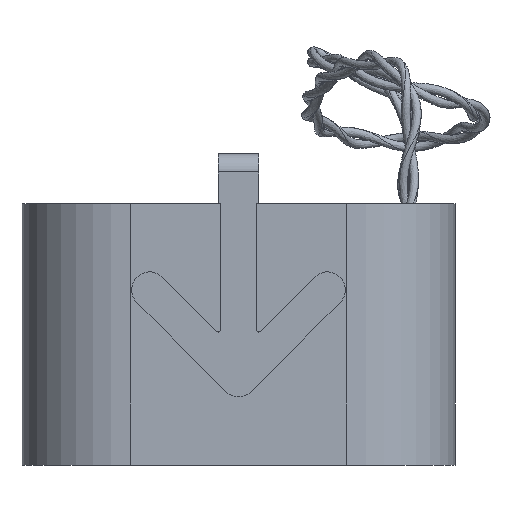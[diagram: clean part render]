
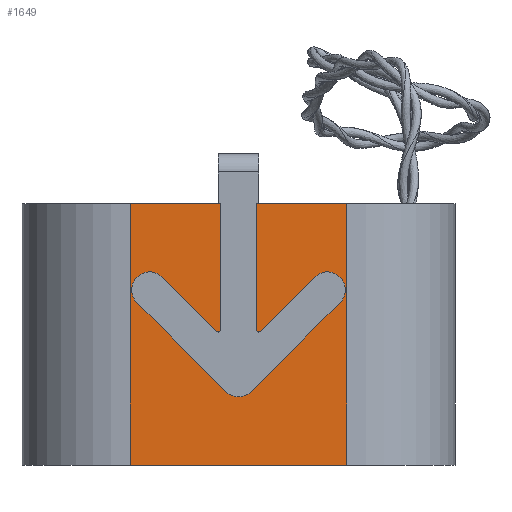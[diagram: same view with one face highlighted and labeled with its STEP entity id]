
A CAD part, front view. The second image highlights one B-rep face of the part: STEP entity #1649.
In plain terms, the highlighted planar face has unit normal (0, -1, 0).
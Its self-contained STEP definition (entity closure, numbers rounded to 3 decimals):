
#166=DIRECTION('',(-1.,0.,0.));
#167=VECTOR('',#166,10.);
#168=CARTESIAN_POINT('',(36.,0.,29.));
#169=LINE('',#168,#167);
#187=DIRECTION('',(0.,0.,1.));
#188=VECTOR('',#187,29.);
#189=CARTESIAN_POINT('',(36.,0.,0.));
#190=LINE('',#189,#188);
#195=DIRECTION('',(0.,0.,-1.));
#196=VECTOR('',#195,13.993);
#197=CARTESIAN_POINT('',(22.,0.,29.));
#198=LINE('',#197,#196);
#199=CARTESIAN_POINT('',(21.75,0.,15.007));
#200=DIRECTION('',(0.,-1.,0.));
#201=DIRECTION('',(0.,0.,-1.));
#202=AXIS2_PLACEMENT_3D('',#199,#200,#201);
#204=CARTESIAN_POINT('',(21.75,0.,15.007));
#205=DIRECTION('',(0.,-1.,0.));
#206=DIRECTION('',(-0.707,0.,-0.707));
#207=AXIS2_PLACEMENT_3D('',#204,#205,#206);
#209=DIRECTION('',(0.707,0.,-0.707));
#210=VECTOR('',#209,8.498);
#211=CARTESIAN_POINT('',(15.564,0.,20.839));
#212=LINE('',#211,#210);
#213=CARTESIAN_POINT('',(14.15,0.,19.425));
#214=DIRECTION('',(0.,-1.,0.));
#215=DIRECTION('',(0.707,0.,0.707));
#216=AXIS2_PLACEMENT_3D('',#213,#214,#215);
#218=DIRECTION('',(-0.707,0.,0.707));
#219=VECTOR('',#218,13.93);
#220=CARTESIAN_POINT('',(22.586,0.,8.161));
#221=LINE('',#220,#219);
#222=CARTESIAN_POINT('',(24.,0.,9.575));
#223=DIRECTION('',(0.,1.,0.));
#224=DIRECTION('',(0.,0.,-1.));
#225=AXIS2_PLACEMENT_3D('',#222,#223,#224);
#227=CARTESIAN_POINT('',(24.,0.,9.575));
#228=DIRECTION('',(0.,1.,0.));
#229=DIRECTION('',(0.707,0.,-0.707));
#230=AXIS2_PLACEMENT_3D('',#227,#228,#229);
#232=DIRECTION('',(-0.707,0.,-0.707));
#233=VECTOR('',#232,13.93);
#234=CARTESIAN_POINT('',(35.264,0.,18.011));
#235=LINE('',#234,#233);
#236=CARTESIAN_POINT('',(33.85,0.,19.425));
#237=DIRECTION('',(0.,1.,0.));
#238=DIRECTION('',(-0.707,0.,0.707));
#239=AXIS2_PLACEMENT_3D('',#236,#237,#238);
#241=DIRECTION('',(0.707,0.,0.707));
#242=VECTOR('',#241,8.498);
#243=CARTESIAN_POINT('',(26.427,0.,14.83));
#244=LINE('',#243,#242);
#245=CARTESIAN_POINT('',(26.25,0.,15.007));
#246=DIRECTION('',(0.,-1.,0.));
#247=DIRECTION('',(0.,0.,-1.));
#248=AXIS2_PLACEMENT_3D('',#245,#246,#247);
#250=CARTESIAN_POINT('',(26.25,0.,15.007));
#251=DIRECTION('',(0.,-1.,0.));
#252=DIRECTION('',(-1.,0.,0.));
#253=AXIS2_PLACEMENT_3D('',#250,#251,#252);
#255=DIRECTION('',(0.,0.,-1.));
#256=VECTOR('',#255,29.);
#257=CARTESIAN_POINT('',(12.,0.,29.));
#258=LINE('',#257,#256);
#316=DIRECTION('',(-1.,0.,0.));
#317=VECTOR('',#316,10.);
#318=CARTESIAN_POINT('',(22.,0.,29.));
#319=LINE('',#318,#317);
#596=DIRECTION('',(0.,0.,-1.));
#597=VECTOR('',#596,13.993);
#598=CARTESIAN_POINT('',(26.,0.,29.));
#599=LINE('',#598,#597);
#626=DIRECTION('',(1.,0.,0.));
#627=VECTOR('',#626,24.);
#628=CARTESIAN_POINT('',(12.,0.,0.));
#629=LINE('',#628,#627);
#1010=CARTESIAN_POINT('',(21.75,0.,14.757));
#1011=VERTEX_POINT('',#1010);
#1012=CARTESIAN_POINT('',(21.573,0.,14.83));
#1013=VERTEX_POINT('',#1012);
#1018=CARTESIAN_POINT('',(26.25,0.,14.757));
#1019=VERTEX_POINT('',#1018);
#1020=CARTESIAN_POINT('',(26.,0.,15.007));
#1021=VERTEX_POINT('',#1020);
#1026=CARTESIAN_POINT('',(24.,0.,7.575));
#1027=VERTEX_POINT('',#1026);
#1028=CARTESIAN_POINT('',(25.414,0.,8.161));
#1029=VERTEX_POINT('',#1028);
#1126=CARTESIAN_POINT('',(26.427,0.,14.83));
#1127=VERTEX_POINT('',#1126);
#1128=CARTESIAN_POINT('',(32.436,0.,20.839));
#1129=VERTEX_POINT('',#1128);
#1130=CARTESIAN_POINT('',(35.264,0.,18.011));
#1131=VERTEX_POINT('',#1130);
#1132=CARTESIAN_POINT('',(22.586,0.,8.161));
#1133=VERTEX_POINT('',#1132);
#1134=CARTESIAN_POINT('',(12.736,0.,18.011));
#1135=VERTEX_POINT('',#1134);
#1136=CARTESIAN_POINT('',(15.564,0.,20.839));
#1137=VERTEX_POINT('',#1136);
#1138=CARTESIAN_POINT('',(22.,0.,15.007));
#1139=VERTEX_POINT('',#1138);
#1179=CARTESIAN_POINT('',(12.,0.,0.));
#1181=VERTEX_POINT('',#1179);
#1183=CARTESIAN_POINT('',(36.,0.,0.));
#1184=VERTEX_POINT('',#1183);
#1195=CARTESIAN_POINT('',(22.,0.,29.));
#1196=CARTESIAN_POINT('',(12.,0.,29.));
#1197=VERTEX_POINT('',#1195);
#1198=VERTEX_POINT('',#1196);
#1211=CARTESIAN_POINT('',(36.,0.,29.));
#1212=CARTESIAN_POINT('',(26.,0.,29.));
#1213=VERTEX_POINT('',#1211);
#1214=VERTEX_POINT('',#1212);
#1606=CARTESIAN_POINT('',(0.,0.,29.));
#1607=DIRECTION('',(0.,1.,0.));
#1608=DIRECTION('',(0.,0.,1.));
#1609=AXIS2_PLACEMENT_3D('',#1606,#1607,#1608);
#1610=PLANE('',#1609);
#1612=ORIENTED_EDGE('',*,*,#1611,.F.);
#1614=ORIENTED_EDGE('',*,*,#1613,.F.);
#1616=ORIENTED_EDGE('',*,*,#1615,.T.);
#1618=ORIENTED_EDGE('',*,*,#1617,.F.);
#1620=ORIENTED_EDGE('',*,*,#1619,.F.);
#1622=ORIENTED_EDGE('',*,*,#1621,.F.);
#1624=ORIENTED_EDGE('',*,*,#1623,.T.);
#1626=ORIENTED_EDGE('',*,*,#1625,.F.);
#1628=ORIENTED_EDGE('',*,*,#1627,.F.);
#1630=ORIENTED_EDGE('',*,*,#1629,.F.);
#1632=ORIENTED_EDGE('',*,*,#1631,.F.);
#1634=ORIENTED_EDGE('',*,*,#1633,.F.);
#1636=ORIENTED_EDGE('',*,*,#1635,.F.);
#1638=ORIENTED_EDGE('',*,*,#1637,.F.);
#1640=ORIENTED_EDGE('',*,*,#1639,.F.);
#1642=ORIENTED_EDGE('',*,*,#1641,.F.);
#1643=ORIENTED_EDGE('',*,*,#1545,.F.);
#1644=ORIENTED_EDGE('',*,*,#1590,.F.);
#1646=ORIENTED_EDGE('',*,*,#1645,.F.);
#1647=EDGE_LOOP('',(#1612,#1614,#1616,#1618,#1620,#1622,#1624,#1626,#1628,#1630,
#1632,#1634,#1636,#1638,#1640,#1642,#1643,#1644,#1646));
#1648=FACE_OUTER_BOUND('',#1647,.F.);
#203=CIRCLE('',#202,0.25);
#208=CIRCLE('',#207,0.25);
#217=CIRCLE('',#216,2.);
#226=CIRCLE('',#225,2.);
#231=CIRCLE('',#230,2.);
#240=CIRCLE('',#239,2.);
#249=CIRCLE('',#248,0.25);
#254=CIRCLE('',#253,0.25);
#1545=EDGE_CURVE('',#1213,#1214,#169,.T.);
#1590=EDGE_CURVE('',#1184,#1213,#190,.T.);
#1611=EDGE_CURVE('',#1198,#1181,#258,.T.);
#1613=EDGE_CURVE('',#1197,#1198,#319,.T.);
#1615=EDGE_CURVE('',#1197,#1139,#198,.T.);
#1617=EDGE_CURVE('',#1011,#1139,#203,.T.);
#1619=EDGE_CURVE('',#1013,#1011,#208,.T.);
#1621=EDGE_CURVE('',#1137,#1013,#212,.T.);
#1623=EDGE_CURVE('',#1137,#1135,#217,.T.);
#1625=EDGE_CURVE('',#1133,#1135,#221,.T.);
#1627=EDGE_CURVE('',#1027,#1133,#226,.T.);
#1629=EDGE_CURVE('',#1029,#1027,#231,.T.);
#1631=EDGE_CURVE('',#1131,#1029,#235,.T.);
#1633=EDGE_CURVE('',#1129,#1131,#240,.T.);
#1635=EDGE_CURVE('',#1127,#1129,#244,.T.);
#1637=EDGE_CURVE('',#1019,#1127,#249,.T.);
#1639=EDGE_CURVE('',#1021,#1019,#254,.T.);
#1641=EDGE_CURVE('',#1214,#1021,#599,.T.);
#1645=EDGE_CURVE('',#1181,#1184,#629,.T.);
#1649=ADVANCED_FACE('',(#1648),#1610,.F.);
